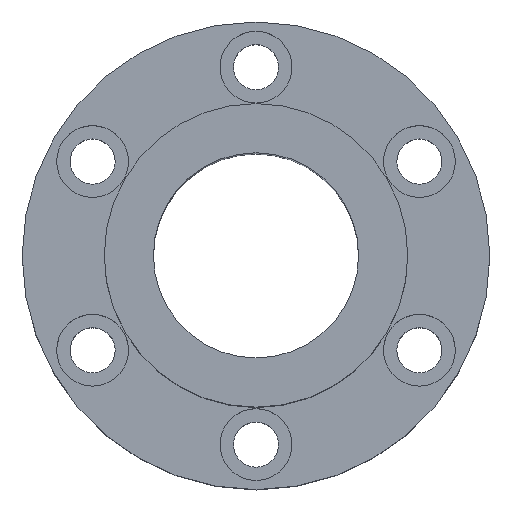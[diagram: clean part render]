
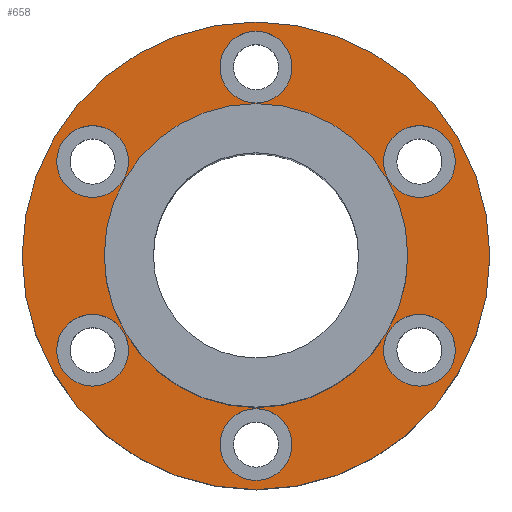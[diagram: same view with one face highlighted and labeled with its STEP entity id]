
A CAD part, top view. The second image highlights one B-rep face of the part: STEP entity #658.
In plain terms, the highlighted planar face has unit normal (0, 0, 1).
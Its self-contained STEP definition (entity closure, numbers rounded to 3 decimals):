
#1=CARTESIAN_POINT('',(0.,0.,22.5));
#2=DIRECTION('',(0.,0.,1.));
#3=DIRECTION('',(1.,0.,0.));
#4=AXIS2_PLACEMENT_3D('',#1,#2,#3);
#6=CARTESIAN_POINT('',(0.,0.,22.5));
#7=DIRECTION('',(0.,0.,1.));
#8=DIRECTION('',(-1.,0.,0.));
#9=AXIS2_PLACEMENT_3D('',#6,#7,#8);
#11=CARTESIAN_POINT('',(39.837,-23.,22.5));
#12=DIRECTION('',(0.,0.,-1.));
#13=DIRECTION('',(-0.5,-0.866,0.));
#14=AXIS2_PLACEMENT_3D('',#11,#12,#13);
#16=CARTESIAN_POINT('',(39.837,-23.,22.5));
#17=DIRECTION('',(0.,0.,-1.));
#18=DIRECTION('',(0.5,0.866,0.));
#19=AXIS2_PLACEMENT_3D('',#16,#17,#18);
#21=CARTESIAN_POINT('',(-39.837,-23.,22.5));
#22=DIRECTION('',(0.,0.,-1.));
#23=DIRECTION('',(-0.5,0.866,0.));
#24=AXIS2_PLACEMENT_3D('',#21,#22,#23);
#26=CARTESIAN_POINT('',(-39.837,-23.,22.5));
#27=DIRECTION('',(0.,0.,-1.));
#28=DIRECTION('',(0.5,-0.866,0.));
#29=AXIS2_PLACEMENT_3D('',#26,#27,#28);
#31=CARTESIAN_POINT('',(0.,46.,22.5));
#32=DIRECTION('',(0.,0.,-1.));
#33=DIRECTION('',(1.,0.,0.));
#34=AXIS2_PLACEMENT_3D('',#31,#32,#33);
#36=CARTESIAN_POINT('',(0.,46.,22.5));
#37=DIRECTION('',(0.,0.,-1.));
#38=DIRECTION('',(-1.,0.,0.));
#39=AXIS2_PLACEMENT_3D('',#36,#37,#38);
#41=CARTESIAN_POINT('',(0.,0.,22.5));
#42=DIRECTION('',(0.,0.,-1.));
#43=DIRECTION('',(1.,0.,0.));
#44=AXIS2_PLACEMENT_3D('',#41,#42,#43);
#46=CARTESIAN_POINT('',(0.,0.,22.5));
#47=DIRECTION('',(0.,0.,-1.));
#48=DIRECTION('',(-1.,0.,0.));
#49=AXIS2_PLACEMENT_3D('',#46,#47,#48);
#51=CARTESIAN_POINT('',(-39.837,23.,22.5));
#52=DIRECTION('',(0.,0.,-1.));
#53=DIRECTION('',(0.5,0.866,0.));
#54=AXIS2_PLACEMENT_3D('',#51,#52,#53);
#56=CARTESIAN_POINT('',(-39.837,23.,22.5));
#57=DIRECTION('',(0.,0.,-1.));
#58=DIRECTION('',(-0.5,-0.866,0.));
#59=AXIS2_PLACEMENT_3D('',#56,#57,#58);
#61=CARTESIAN_POINT('',(0.,-46.,22.5));
#62=DIRECTION('',(0.,0.,-1.));
#63=DIRECTION('',(-1.,0.,0.));
#64=AXIS2_PLACEMENT_3D('',#61,#62,#63);
#66=CARTESIAN_POINT('',(0.,-46.,22.5));
#67=DIRECTION('',(0.,0.,-1.));
#68=DIRECTION('',(1.,0.,0.));
#69=AXIS2_PLACEMENT_3D('',#66,#67,#68);
#71=CARTESIAN_POINT('',(39.837,23.,22.5));
#72=DIRECTION('',(0.,0.,-1.));
#73=DIRECTION('',(0.5,-0.866,0.));
#74=AXIS2_PLACEMENT_3D('',#71,#72,#73);
#76=CARTESIAN_POINT('',(39.837,23.,22.5));
#77=DIRECTION('',(0.,0.,-1.));
#78=DIRECTION('',(-0.5,0.866,0.));
#79=AXIS2_PLACEMENT_3D('',#76,#77,#78);
#533=CARTESIAN_POINT('',(-57.,0.,22.5));
#535=VERTEX_POINT('',#533);
#537=CARTESIAN_POINT('',(57.,0.,22.5));
#539=VERTEX_POINT('',#537);
#541=CARTESIAN_POINT('',(8.75,46.,22.5));
#543=VERTEX_POINT('',#541);
#545=CARTESIAN_POINT('',(-8.75,46.,22.5));
#547=VERTEX_POINT('',#545);
#549=CARTESIAN_POINT('',(-35.462,30.578,22.5));
#551=VERTEX_POINT('',#549);
#553=CARTESIAN_POINT('',(-44.212,15.422,22.5));
#555=VERTEX_POINT('',#553);
#557=CARTESIAN_POINT('',(-44.212,-15.422,22.5));
#559=VERTEX_POINT('',#557);
#561=CARTESIAN_POINT('',(-35.462,-30.578,22.5));
#563=VERTEX_POINT('',#561);
#565=CARTESIAN_POINT('',(-8.75,-46.,22.5));
#567=VERTEX_POINT('',#565);
#569=CARTESIAN_POINT('',(8.75,-46.,22.5));
#571=VERTEX_POINT('',#569);
#573=CARTESIAN_POINT('',(35.462,-30.578,22.5));
#575=VERTEX_POINT('',#573);
#577=CARTESIAN_POINT('',(44.212,-15.422,22.5));
#579=VERTEX_POINT('',#577);
#581=CARTESIAN_POINT('',(44.212,15.422,22.5));
#583=VERTEX_POINT('',#581);
#585=CARTESIAN_POINT('',(35.462,30.578,22.5));
#587=VERTEX_POINT('',#585);
#598=CARTESIAN_POINT('',(37.,0.,22.5));
#600=VERTEX_POINT('',#598);
#602=CARTESIAN_POINT('',(-37.,0.,22.5));
#604=VERTEX_POINT('',#602);
#605=CARTESIAN_POINT('',(0.,0.,22.5));
#606=DIRECTION('',(0.,0.,1.));
#607=DIRECTION('',(1.,0.,0.));
#608=AXIS2_PLACEMENT_3D('',#605,#606,#607);
#609=PLANE('',#608);
#611=ORIENTED_EDGE('',*,*,#610,.F.);
#613=ORIENTED_EDGE('',*,*,#612,.F.);
#614=EDGE_LOOP('',(#611,#613));
#615=FACE_OUTER_BOUND('',#614,.F.);
#617=ORIENTED_EDGE('',*,*,#616,.F.);
#619=ORIENTED_EDGE('',*,*,#618,.F.);
#620=EDGE_LOOP('',(#617,#619));
#621=FACE_BOUND('',#620,.F.);
#623=ORIENTED_EDGE('',*,*,#622,.F.);
#625=ORIENTED_EDGE('',*,*,#624,.F.);
#626=EDGE_LOOP('',(#623,#625));
#627=FACE_BOUND('',#626,.F.);
#629=ORIENTED_EDGE('',*,*,#628,.F.);
#631=ORIENTED_EDGE('',*,*,#630,.F.);
#632=EDGE_LOOP('',(#629,#631));
#633=FACE_BOUND('',#632,.F.);
#635=ORIENTED_EDGE('',*,*,#634,.F.);
#637=ORIENTED_EDGE('',*,*,#636,.F.);
#638=EDGE_LOOP('',(#635,#637));
#639=FACE_BOUND('',#638,.F.);
#641=ORIENTED_EDGE('',*,*,#640,.F.);
#643=ORIENTED_EDGE('',*,*,#642,.F.);
#644=EDGE_LOOP('',(#641,#643));
#645=FACE_BOUND('',#644,.F.);
#647=ORIENTED_EDGE('',*,*,#646,.F.);
#649=ORIENTED_EDGE('',*,*,#648,.F.);
#650=EDGE_LOOP('',(#647,#649));
#651=FACE_BOUND('',#650,.F.);
#653=ORIENTED_EDGE('',*,*,#652,.F.);
#655=ORIENTED_EDGE('',*,*,#654,.F.);
#656=EDGE_LOOP('',(#653,#655));
#657=FACE_BOUND('',#656,.F.);
#658=ADVANCED_FACE('',(#615,#621,#627,#633,#639,#645,#651,#657),#609,.T.);
#5=CIRCLE('',#4,57.);
#10=CIRCLE('',#9,57.);
#15=CIRCLE('',#14,8.75);
#20=CIRCLE('',#19,8.75);
#25=CIRCLE('',#24,8.75);
#30=CIRCLE('',#29,8.75);
#35=CIRCLE('',#34,8.75);
#40=CIRCLE('',#39,8.75);
#45=CIRCLE('',#44,37.);
#50=CIRCLE('',#49,37.);
#55=CIRCLE('',#54,8.75);
#60=CIRCLE('',#59,8.75);
#65=CIRCLE('',#64,8.75);
#70=CIRCLE('',#69,8.75);
#75=CIRCLE('',#74,8.75);
#80=CIRCLE('',#79,8.75);
#610=EDGE_CURVE('',#539,#535,#5,.T.);
#612=EDGE_CURVE('',#535,#539,#10,.T.);
#616=EDGE_CURVE('',#575,#579,#15,.T.);
#618=EDGE_CURVE('',#579,#575,#20,.T.);
#622=EDGE_CURVE('',#559,#563,#25,.T.);
#624=EDGE_CURVE('',#563,#559,#30,.T.);
#628=EDGE_CURVE('',#543,#547,#35,.T.);
#630=EDGE_CURVE('',#547,#543,#40,.T.);
#634=EDGE_CURVE('',#600,#604,#45,.T.);
#636=EDGE_CURVE('',#604,#600,#50,.T.);
#640=EDGE_CURVE('',#551,#555,#55,.T.);
#642=EDGE_CURVE('',#555,#551,#60,.T.);
#646=EDGE_CURVE('',#567,#571,#65,.T.);
#648=EDGE_CURVE('',#571,#567,#70,.T.);
#652=EDGE_CURVE('',#583,#587,#75,.T.);
#654=EDGE_CURVE('',#587,#583,#80,.T.);
